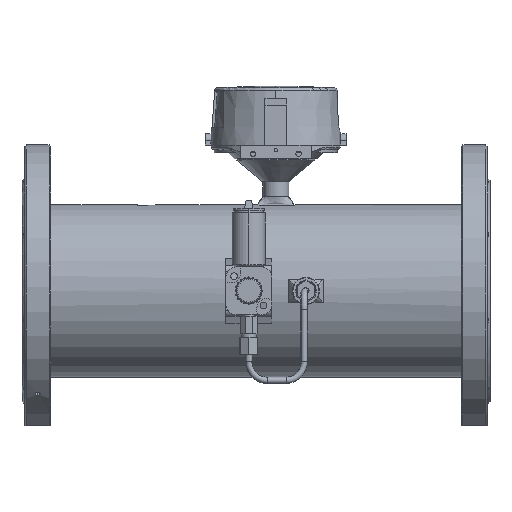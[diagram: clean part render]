
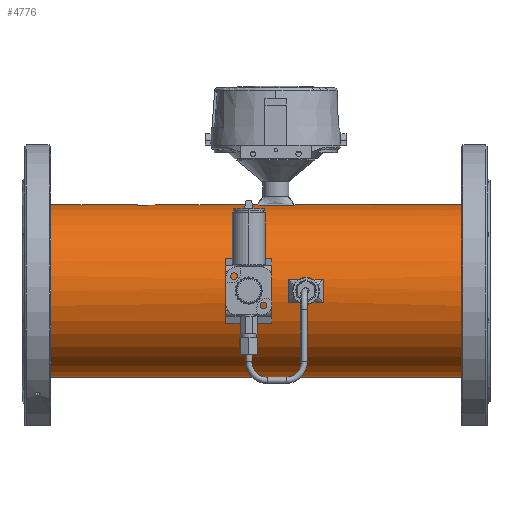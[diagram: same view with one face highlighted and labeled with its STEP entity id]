
A CAD part, top view. The second image highlights one B-rep face of the part: STEP entity #4776.
In plain terms, the highlighted cylindrical face has radius 83.2 mm (diameter 166.4 mm), a partial arc.
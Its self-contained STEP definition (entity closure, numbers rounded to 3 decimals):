
#3664=CARTESIAN_POINT('',(249.5,10.77,82.5));
#3665=CARTESIAN_POINT('',(248.563,3.59,83.437));
#3666=CARTESIAN_POINT('',(248.563,-3.59,83.437));
#3667=CARTESIAN_POINT('',(249.5,-10.77,82.5));
#3672=DIRECTION('',(1.,0.,0.));
#3673=VECTOR('',#3672,33.);
#3674=CARTESIAN_POINT('',(249.5,-10.77,82.5));
#3675=LINE('',#3674,#3673);
#3679=CARTESIAN_POINT('',(282.5,-10.77,82.5));
#3680=CARTESIAN_POINT('',(283.437,-3.59,83.437));
#3681=CARTESIAN_POINT('',(283.437,3.59,83.437));
#3682=CARTESIAN_POINT('',(282.5,10.77,82.5));
#3687=DIRECTION('',(1.,0.,0.));
#3688=VECTOR('',#3687,33.);
#3689=CARTESIAN_POINT('',(249.5,10.77,82.5));
#3690=LINE('',#3689,#3688);
#3694=CARTESIAN_POINT('',(64.34,0.,0.));
#3695=DIRECTION('',(1.,0.,0.));
#3696=DIRECTION('',(0.,1.,0.));
#3697=AXIS2_PLACEMENT_3D('',#3694,#3695,#3696);
#3702=DIRECTION('',(1.,0.,0.));
#3703=VECTOR('',#3702,40.);
#3704=CARTESIAN_POINT('',(64.34,82.983,6.));
#3705=LINE('',#3704,#3703);
#3709=CARTESIAN_POINT('',(104.34,0.,0.));
#3710=DIRECTION('',(1.,0.,0.));
#3711=DIRECTION('',(0.,0.997,0.072));
#3712=AXIS2_PLACEMENT_3D('',#3709,#3710,#3711);
#3717=CARTESIAN_POINT('',(130.321,83.2,0.));
#3718=CARTESIAN_POINT('',(121.642,83.2,5.01));
#3719=CARTESIAN_POINT('',(112.982,82.751,10.011));
#3720=CARTESIAN_POINT('',(104.34,81.837,15.));
#3725=CARTESIAN_POINT('',(218.3,83.2,0.));
#3726=CARTESIAN_POINT('',(218.3,83.2,3.62));
#3727=CARTESIAN_POINT('',(218.535,82.965,7.21));
#3728=CARTESIAN_POINT('',(219.,82.5,10.77));
#3733=DIRECTION('',(1.,0.,0.));
#3734=VECTOR('',#3733,36.);
#3735=CARTESIAN_POINT('',(219.,82.5,10.77));
#3736=LINE('',#3735,#3734);
#3740=CARTESIAN_POINT('',(255.7,83.2,0.));
#3741=CARTESIAN_POINT('',(255.7,83.2,3.62));
#3742=CARTESIAN_POINT('',(255.465,82.965,7.21));
#3743=CARTESIAN_POINT('',(255.,82.5,10.77));
#3748=CARTESIAN_POINT('',(416.,0.,0.));
#3749=DIRECTION('',(1.,0.,0.));
#3750=DIRECTION('',(0.,1.,0.));
#3751=AXIS2_PLACEMENT_3D('',#3748,#3749,#3750);
#3756=CARTESIAN_POINT('',(19.5,0.,0.));
#3757=DIRECTION('',(1.,0.,0.));
#3758=DIRECTION('',(0.,1.,0.));
#3759=AXIS2_PLACEMENT_3D('',#3756,#3757,#3758);
#3973=DIRECTION('',(-1.,0.,0.));
#3974=VECTOR('',#3973,44.84);
#3975=CARTESIAN_POINT('',(64.34,83.2,0.));
#3976=LINE('',#3975,#3974);
#3988=DIRECTION('',(-1.,0.,0.));
#3989=VECTOR('',#3988,396.5);
#3990=CARTESIAN_POINT('',(416.,-83.2,0.));
#3991=LINE('',#3990,#3989);
#4003=DIRECTION('',(-1.,0.,0.));
#4004=VECTOR('',#4003,160.3);
#4005=CARTESIAN_POINT('',(416.,83.2,0.));
#4006=LINE('',#4005,#4004);
#4033=DIRECTION('',(-1.,0.,0.));
#4034=VECTOR('',#4033,87.979);
#4035=CARTESIAN_POINT('',(218.3,83.2,0.));
#4036=LINE('',#4035,#4034);
#4525=CARTESIAN_POINT('',(416.,83.2,0.));
#4526=CARTESIAN_POINT('',(416.,-83.2,0.));
#4527=VERTEX_POINT('',#4525);
#4528=VERTEX_POINT('',#4526);
#4529=VERTEX_POINT('',#3725);
#4530=VERTEX_POINT('',#3728);
#4531=CARTESIAN_POINT('',(255.,82.5,10.77));
#4532=VERTEX_POINT('',#4531);
#4533=VERTEX_POINT('',#3740);
#4553=VERTEX_POINT('',#3664);
#4554=VERTEX_POINT('',#3667);
#4555=VERTEX_POINT('',#3679);
#4556=VERTEX_POINT('',#3682);
#4561=CARTESIAN_POINT('',(19.5,83.2,0.));
#4562=CARTESIAN_POINT('',(19.5,-83.2,0.));
#4563=VERTEX_POINT('',#4561);
#4564=VERTEX_POINT('',#4562);
#4629=CARTESIAN_POINT('',(64.34,83.2,0.));
#4630=CARTESIAN_POINT('',(64.34,82.983,6.));
#4631=VERTEX_POINT('',#4629);
#4632=VERTEX_POINT('',#4630);
#4633=CARTESIAN_POINT('',(104.34,82.983,6.));
#4634=VERTEX_POINT('',#4633);
#4635=CARTESIAN_POINT('',(104.34,81.837,15.));
#4636=VERTEX_POINT('',#4635);
#4637=VERTEX_POINT('',#3717);
#4734=CARTESIAN_POINT('',(-21.85,0.,0.));
#4735=DIRECTION('',(1.,0.,0.));
#4736=DIRECTION('',(0.,-1.,0.));
#4737=AXIS2_PLACEMENT_3D('',#4734,#4735,#4736);
#4738=CYLINDRICAL_SURFACE('',#4737,83.2);
#4740=ORIENTED_EDGE('',*,*,#4739,.T.);
#4742=ORIENTED_EDGE('',*,*,#4741,.T.);
#4744=ORIENTED_EDGE('',*,*,#4743,.T.);
#4746=ORIENTED_EDGE('',*,*,#4745,.F.);
#4748=ORIENTED_EDGE('',*,*,#4747,.F.);
#4750=ORIENTED_EDGE('',*,*,#4749,.T.);
#4752=ORIENTED_EDGE('',*,*,#4751,.T.);
#4754=ORIENTED_EDGE('',*,*,#4753,.F.);
#4756=ORIENTED_EDGE('',*,*,#4755,.F.);
#4757=ORIENTED_EDGE('',*,*,#4716,.T.);
#4759=ORIENTED_EDGE('',*,*,#4758,.T.);
#4761=ORIENTED_EDGE('',*,*,#4760,.F.);
#4763=ORIENTED_EDGE('',*,*,#4762,.F.);
#4764=EDGE_LOOP('',(#4740,#4742,#4744,#4746,#4748,#4750,#4752,#4754,#4756,#4757,
#4759,#4761,#4763));
#4765=FACE_OUTER_BOUND('',#4764,.F.);
#4767=ORIENTED_EDGE('',*,*,#4766,.T.);
#4769=ORIENTED_EDGE('',*,*,#4768,.T.);
#4771=ORIENTED_EDGE('',*,*,#4770,.T.);
#4773=ORIENTED_EDGE('',*,*,#4772,.F.);
#4774=EDGE_LOOP('',(#4767,#4769,#4771,#4773));
#4775=FACE_BOUND('',#4774,.F.);
#3668=B_SPLINE_CURVE_WITH_KNOTS('',3,(#3664,#3665,#3666,#3667),.UNSPECIFIED.,
.F.,.F.,(4,4),(0.,1.),.UNSPECIFIED.);
#3683=B_SPLINE_CURVE_WITH_KNOTS('',3,(#3679,#3680,#3681,#3682),.UNSPECIFIED.,
.F.,.F.,(4,4),(0.,1.),.UNSPECIFIED.);
#3698=CIRCLE('',#3697,83.2);
#3713=CIRCLE('',#3712,83.2);
#3721=B_SPLINE_CURVE_WITH_KNOTS('',3,(#3717,#3718,#3719,#3720),.UNSPECIFIED.,
.F.,.F.,(4,4),(0.,1.),.UNSPECIFIED.);
#3729=B_SPLINE_CURVE_WITH_KNOTS('',3,(#3725,#3726,#3727,#3728),.UNSPECIFIED.,
.F.,.F.,(4,4),(0.,1.),.UNSPECIFIED.);
#3744=B_SPLINE_CURVE_WITH_KNOTS('',3,(#3740,#3741,#3742,#3743),.UNSPECIFIED.,
.F.,.F.,(4,4),(0.,1.),.UNSPECIFIED.);
#3752=CIRCLE('',#3751,83.2);
#3760=CIRCLE('',#3759,83.2);
#4716=EDGE_CURVE('',#4527,#4528,#3752,.T.);
#4739=EDGE_CURVE('',#4631,#4632,#3698,.T.);
#4741=EDGE_CURVE('',#4632,#4634,#3705,.T.);
#4743=EDGE_CURVE('',#4634,#4636,#3713,.T.);
#4745=EDGE_CURVE('',#4637,#4636,#3721,.T.);
#4747=EDGE_CURVE('',#4529,#4637,#4036,.T.);
#4749=EDGE_CURVE('',#4529,#4530,#3729,.T.);
#4751=EDGE_CURVE('',#4530,#4532,#3736,.T.);
#4753=EDGE_CURVE('',#4533,#4532,#3744,.T.);
#4755=EDGE_CURVE('',#4527,#4533,#4006,.T.);
#4758=EDGE_CURVE('',#4528,#4564,#3991,.T.);
#4760=EDGE_CURVE('',#4563,#4564,#3760,.T.);
#4762=EDGE_CURVE('',#4631,#4563,#3976,.T.);
#4766=EDGE_CURVE('',#4553,#4554,#3668,.T.);
#4768=EDGE_CURVE('',#4554,#4555,#3675,.T.);
#4770=EDGE_CURVE('',#4555,#4556,#3683,.T.);
#4772=EDGE_CURVE('',#4553,#4556,#3690,.T.);
#4776=ADVANCED_FACE('',(#4765,#4775),#4738,.T.);
